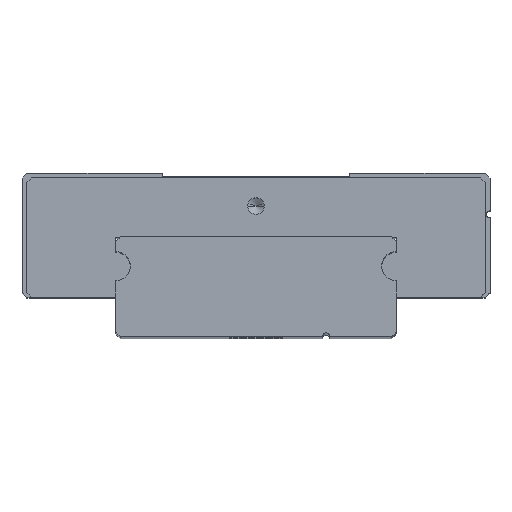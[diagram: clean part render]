
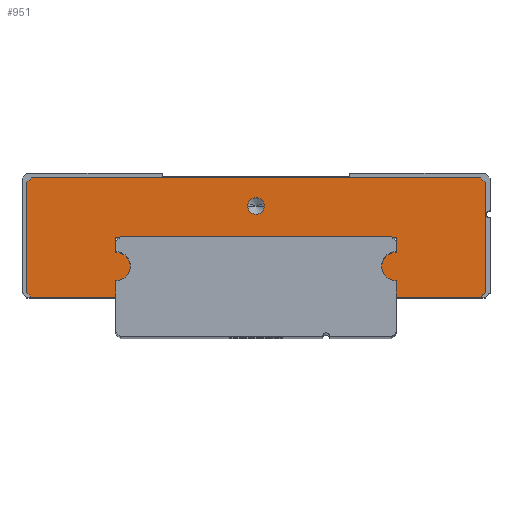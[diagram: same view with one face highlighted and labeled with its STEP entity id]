
A CAD part, top view. The second image highlights one B-rep face of the part: STEP entity #951.
In plain terms, the highlighted planar face has unit normal (0, 0, 1).
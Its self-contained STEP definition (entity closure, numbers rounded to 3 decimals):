
#2=CARTESIAN_POINT('',(-12.,6.,23.05));
#3=DIRECTION('',(0.,0.,-1.));
#4=DIRECTION('',(0.,1.,0.));
#5=AXIS2_PLACEMENT_3D('',#2,#3,#4);
#7=DIRECTION('',(1.,0.,0.));
#8=VECTOR('',#7,7.2);
#9=CARTESIAN_POINT('',(-19.2,3.4,23.05));
#10=LINE('',#9,#8);
#11=DIRECTION('',(0.707,-0.707,0.));
#12=VECTOR('',#11,0.566);
#13=CARTESIAN_POINT('',(-19.6,3.8,23.05));
#14=LINE('',#13,#12);
#15=DIRECTION('',(0.,-1.,0.));
#16=VECTOR('',#15,9.4);
#17=CARTESIAN_POINT('',(-19.6,13.2,23.05));
#18=LINE('',#17,#16);
#19=DIRECTION('',(-0.707,-0.707,0.));
#20=VECTOR('',#19,0.566);
#21=CARTESIAN_POINT('',(-19.2,13.6,23.05));
#22=LINE('',#21,#20);
#23=DIRECTION('',(-1.,0.,0.));
#24=VECTOR('',#23,38.4);
#25=CARTESIAN_POINT('',(19.2,13.6,23.05));
#26=LINE('',#25,#24);
#27=DIRECTION('',(-0.707,0.707,0.));
#28=VECTOR('',#27,0.566);
#29=CARTESIAN_POINT('',(19.6,13.2,23.05));
#30=LINE('',#29,#28);
#31=DIRECTION('',(0.707,0.707,0.));
#32=VECTOR('',#31,0.566);
#33=CARTESIAN_POINT('',(19.2,3.4,23.05));
#34=LINE('',#33,#32);
#35=DIRECTION('',(1.,0.,0.));
#36=VECTOR('',#35,7.2);
#37=CARTESIAN_POINT('',(12.,3.4,23.05));
#38=LINE('',#37,#36);
#39=CARTESIAN_POINT('',(12.,6.,23.05));
#40=DIRECTION('',(0.,0.,-1.));
#41=DIRECTION('',(0.,-1.,0.));
#42=AXIS2_PLACEMENT_3D('',#39,#40,#41);
#44=CARTESIAN_POINT('',(0.,11.2,23.05));
#45=DIRECTION('',(0.,0.,-1.));
#46=DIRECTION('',(-1.,0.,0.));
#47=AXIS2_PLACEMENT_3D('',#44,#45,#46);
#49=CARTESIAN_POINT('',(0.,11.2,23.05));
#50=DIRECTION('',(0.,0.,-1.));
#51=DIRECTION('',(1.,0.,0.));
#52=AXIS2_PLACEMENT_3D('',#49,#50,#51);
#130=DIRECTION('',(0.,-1.,0.));
#131=VECTOR('',#130,1.25);
#132=CARTESIAN_POINT('',(-12.,8.5,23.05));
#133=LINE('',#132,#131);
#138=DIRECTION('',(-1.,0.,0.));
#139=VECTOR('',#138,24.);
#140=CARTESIAN_POINT('',(12.,8.5,23.05));
#141=LINE('',#140,#139);
#146=DIRECTION('',(0.,1.,0.));
#147=VECTOR('',#146,1.25);
#148=CARTESIAN_POINT('',(12.,7.25,23.05));
#149=LINE('',#148,#147);
#158=DIRECTION('',(0.,1.,0.));
#159=VECTOR('',#158,1.35);
#160=CARTESIAN_POINT('',(12.,3.4,23.05));
#161=LINE('',#160,#159);
#574=DIRECTION('',(0.,-1.,0.));
#575=VECTOR('',#574,9.4);
#576=CARTESIAN_POINT('',(19.6,13.2,23.05));
#577=LINE('',#576,#575);
#590=DIRECTION('',(0.,-1.,0.));
#591=VECTOR('',#590,1.35);
#592=CARTESIAN_POINT('',(-12.,4.75,23.05));
#593=LINE('',#592,#591);
#690=CARTESIAN_POINT('',(-19.6,13.2,23.05));
#691=CARTESIAN_POINT('',(-19.6,3.8,23.05));
#692=VERTEX_POINT('',#690);
#693=VERTEX_POINT('',#691);
#694=CARTESIAN_POINT('',(-19.2,3.4,23.05));
#695=VERTEX_POINT('',#694);
#696=CARTESIAN_POINT('',(-12.,3.4,23.05));
#697=VERTEX_POINT('',#696);
#698=CARTESIAN_POINT('',(-12.,4.75,23.05));
#699=VERTEX_POINT('',#698);
#700=CARTESIAN_POINT('',(-12.,8.5,23.05));
#701=CARTESIAN_POINT('',(-12.,7.25,23.05));
#702=VERTEX_POINT('',#700);
#703=VERTEX_POINT('',#701);
#704=CARTESIAN_POINT('',(12.,8.5,23.05));
#705=VERTEX_POINT('',#704);
#706=CARTESIAN_POINT('',(12.,7.25,23.05));
#707=VERTEX_POINT('',#706);
#708=CARTESIAN_POINT('',(12.,3.4,23.05));
#709=CARTESIAN_POINT('',(12.,4.75,23.05));
#710=VERTEX_POINT('',#708);
#711=VERTEX_POINT('',#709);
#712=CARTESIAN_POINT('',(19.2,3.4,23.05));
#713=VERTEX_POINT('',#712);
#714=CARTESIAN_POINT('',(19.6,3.8,23.05));
#715=VERTEX_POINT('',#714);
#716=CARTESIAN_POINT('',(19.6,13.2,23.05));
#717=VERTEX_POINT('',#716);
#718=CARTESIAN_POINT('',(19.2,13.6,23.05));
#719=VERTEX_POINT('',#718);
#720=CARTESIAN_POINT('',(-19.2,13.6,23.05));
#721=VERTEX_POINT('',#720);
#852=CARTESIAN_POINT('',(-0.7,11.2,23.05));
#853=VERTEX_POINT('',#852);
#854=CARTESIAN_POINT('',(0.7,11.2,23.05));
#855=VERTEX_POINT('',#854);
#906=CARTESIAN_POINT('',(20.,10.5,23.05));
#907=DIRECTION('',(0.,0.,1.));
#908=DIRECTION('',(1.,0.,0.));
#909=AXIS2_PLACEMENT_3D('',#906,#907,#908);
#910=PLANE('',#909);
#912=ORIENTED_EDGE('',*,*,#911,.T.);
#914=ORIENTED_EDGE('',*,*,#913,.T.);
#916=ORIENTED_EDGE('',*,*,#915,.F.);
#918=ORIENTED_EDGE('',*,*,#917,.F.);
#920=ORIENTED_EDGE('',*,*,#919,.F.);
#922=ORIENTED_EDGE('',*,*,#921,.F.);
#924=ORIENTED_EDGE('',*,*,#923,.F.);
#926=ORIENTED_EDGE('',*,*,#925,.F.);
#928=ORIENTED_EDGE('',*,*,#927,.T.);
#930=ORIENTED_EDGE('',*,*,#929,.F.);
#932=ORIENTED_EDGE('',*,*,#931,.F.);
#934=ORIENTED_EDGE('',*,*,#933,.T.);
#936=ORIENTED_EDGE('',*,*,#935,.T.);
#938=ORIENTED_EDGE('',*,*,#937,.T.);
#940=ORIENTED_EDGE('',*,*,#939,.T.);
#942=ORIENTED_EDGE('',*,*,#941,.T.);
#943=EDGE_LOOP('',(#912,#914,#916,#918,#920,#922,#924,#926,#928,#930,#932,#934,
#936,#938,#940,#942));
#944=FACE_OUTER_BOUND('',#943,.F.);
#946=ORIENTED_EDGE('',*,*,#945,.F.);
#948=ORIENTED_EDGE('',*,*,#947,.F.);
#949=EDGE_LOOP('',(#946,#948));
#950=FACE_BOUND('',#949,.F.);
#951=ADVANCED_FACE('',(#944,#950),#910,.T.);
#6=CIRCLE('',#5,1.25);
#43=CIRCLE('',#42,1.25);
#48=CIRCLE('',#47,0.7);
#53=CIRCLE('',#52,0.7);
#911=EDGE_CURVE('',#703,#699,#6,.T.);
#913=EDGE_CURVE('',#699,#697,#593,.T.);
#915=EDGE_CURVE('',#695,#697,#10,.T.);
#917=EDGE_CURVE('',#693,#695,#14,.T.);
#919=EDGE_CURVE('',#692,#693,#18,.T.);
#921=EDGE_CURVE('',#721,#692,#22,.T.);
#923=EDGE_CURVE('',#719,#721,#26,.T.);
#925=EDGE_CURVE('',#717,#719,#30,.T.);
#927=EDGE_CURVE('',#717,#715,#577,.T.);
#929=EDGE_CURVE('',#713,#715,#34,.T.);
#931=EDGE_CURVE('',#710,#713,#38,.T.);
#933=EDGE_CURVE('',#710,#711,#161,.T.);
#935=EDGE_CURVE('',#711,#707,#43,.T.);
#937=EDGE_CURVE('',#707,#705,#149,.T.);
#939=EDGE_CURVE('',#705,#702,#141,.T.);
#941=EDGE_CURVE('',#702,#703,#133,.T.);
#945=EDGE_CURVE('',#853,#855,#48,.T.);
#947=EDGE_CURVE('',#855,#853,#53,.T.);
